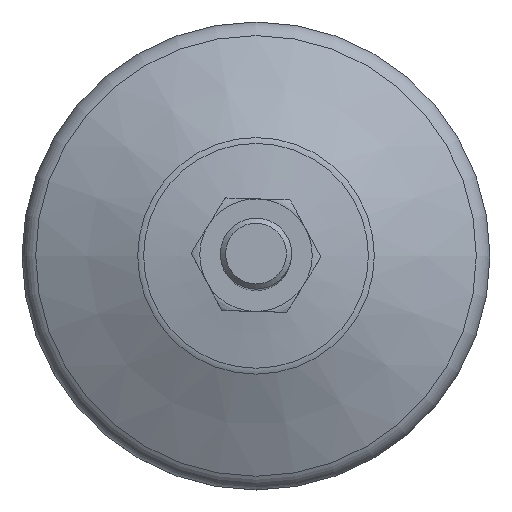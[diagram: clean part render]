
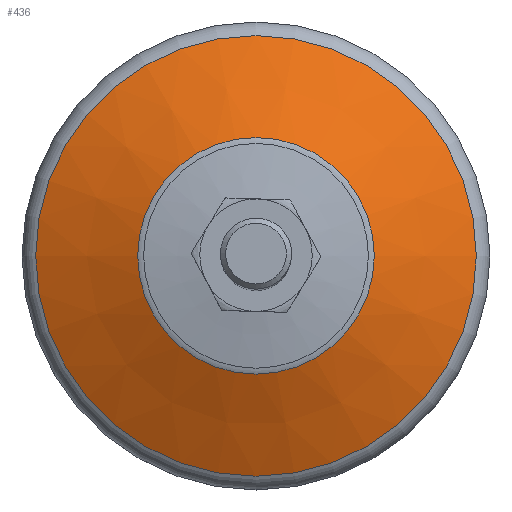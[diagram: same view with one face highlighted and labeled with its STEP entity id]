
A CAD part, top view. The second image highlights one B-rep face of the part: STEP entity #436.
In plain terms, the highlighted conical face has half-angle 65 degrees and reference radius 19.971 mm.
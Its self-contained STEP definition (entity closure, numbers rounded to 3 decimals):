
#436=ADVANCED_FACE('',(#743,#744),#745,.T.);
#743=FACE_BOUND('',#1031,.T.);
#744=FACE_OUTER_BOUND('',#1032,.T.);
#745=CONICAL_SURFACE('',#1033,19.971,1.134);
#1031=EDGE_LOOP('',(#1642));
#1032=EDGE_LOOP('',(#1643));
#1033=AXIS2_PLACEMENT_3D('',#1644,#1645,#1646);
#1642=ORIENTED_EDGE('',*,*,#1906,.T.);
#1643=ORIENTED_EDGE('',*,*,#1902,.F.);
#1644=CARTESIAN_POINT('',(0.0,0.0,15.707));
#1645=DIRECTION('',(-0.0,0.0,-1.0));
#1646=DIRECTION('',(-1.0,0.0,0.0));
#1902=EDGE_CURVE('',#2228,#2228,#2229,.T.);
#1906=EDGE_CURVE('',#2234,#2234,#2235,.T.);
#2228=VERTEX_POINT('',#3161);
#2229=CIRCLE('',#3162,37.19);
#2234=VERTEX_POINT('',#3167);
#2235=CIRCLE('',#3168,19.971);
#3161=CARTESIAN_POINT('',(-37.19,0.0,7.677));
#3162=AXIS2_PLACEMENT_3D('',#3416,#3417,#3418);
#3167=CARTESIAN_POINT('',(-19.971,0.0,15.707));
#3168=AXIS2_PLACEMENT_3D('',#3422,#3423,#3424);
#3416=CARTESIAN_POINT('',(0.0,0.0,7.677));
#3417=DIRECTION('',(0.0,0.0,-1.0));
#3418=DIRECTION('',(-1.0,0.0,0.0));
#3422=CARTESIAN_POINT('',(0.0,0.0,15.707));
#3423=DIRECTION('',(0.0,0.0,-1.0));
#3424=DIRECTION('',(-1.0,0.0,0.0));
